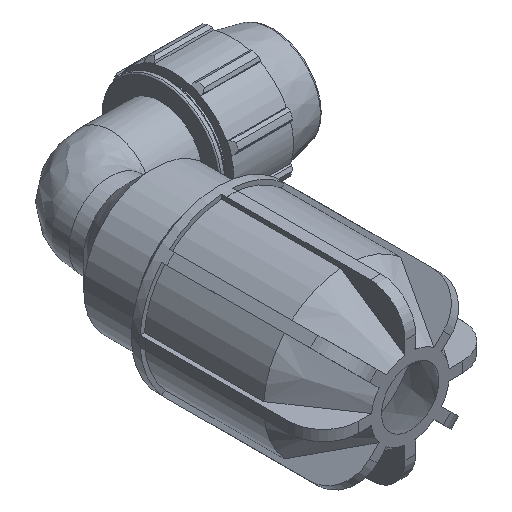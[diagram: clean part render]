
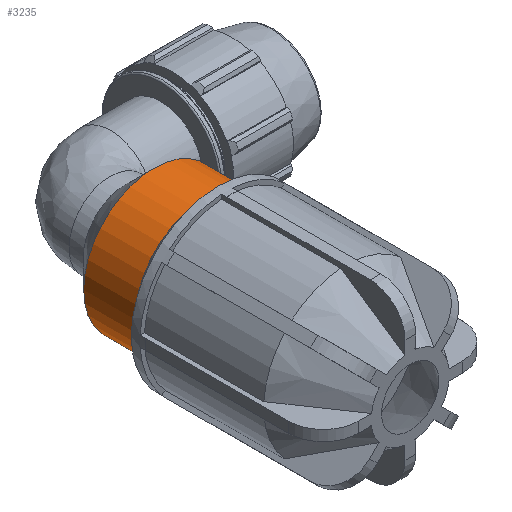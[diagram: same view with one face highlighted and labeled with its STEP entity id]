
A CAD part, isometric view. The second image highlights one B-rep face of the part: STEP entity #3235.
In plain terms, the highlighted cylindrical face has radius 28.805 mm (diameter 57.61 mm), a full revolution.
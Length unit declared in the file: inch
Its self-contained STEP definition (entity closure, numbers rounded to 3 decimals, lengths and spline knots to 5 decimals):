
#344=FACE_OUTER_BOUND('',#511,.T.);
#511=EDGE_LOOP('',(#2842,#2843,#2844,#2845,#2846,#2847));
#755=LINE('',#5541,#997);
#997=VECTOR('',#4477,1.13405);
#1164=CIRCLE('',#3578,1.13405);
#1165=CIRCLE('',#3579,1.13405);
#1166=CIRCLE('',#3581,1.13405);
#1167=CIRCLE('',#3582,1.13405);
#1476=VERTEX_POINT('',#5531);
#1477=VERTEX_POINT('',#5532);
#1478=VERTEX_POINT('',#5537);
#1479=VERTEX_POINT('',#5538);
#1934=EDGE_CURVE('',#1476,#1477,#1164,.T.);
#1935=EDGE_CURVE('',#1477,#1476,#1165,.T.);
#1937=EDGE_CURVE('',#1478,#1479,#1166,.T.);
#1938=EDGE_CURVE('',#1479,#1478,#1167,.T.);
#1939=EDGE_CURVE('',#1479,#1477,#755,.T.);
#2842=ORIENTED_EDGE('',*,*,#1937,.F.);
#2843=ORIENTED_EDGE('',*,*,#1938,.F.);
#2844=ORIENTED_EDGE('',*,*,#1939,.T.);
#2845=ORIENTED_EDGE('',*,*,#1935,.T.);
#2846=ORIENTED_EDGE('',*,*,#1934,.T.);
#2847=ORIENTED_EDGE('',*,*,#1939,.F.);
#2918=CYLINDRICAL_SURFACE('',#3580,1.13405);
#3235=ADVANCED_FACE('',(#344),#2918,.T.);
#3578=AXIS2_PLACEMENT_3D('',#5533,#4466,#4467);
#3579=AXIS2_PLACEMENT_3D('',#5534,#4468,#4469);
#3580=AXIS2_PLACEMENT_3D('',#5536,#4471,#4472);
#3581=AXIS2_PLACEMENT_3D('',#5539,#4473,#4474);
#3582=AXIS2_PLACEMENT_3D('',#5540,#4475,#4476);
#4466=DIRECTION('center_axis',(0.,1.,0.));
#4467=DIRECTION('ref_axis',(1.,0.,0.));
#4468=DIRECTION('center_axis',(0.,1.,0.));
#4469=DIRECTION('ref_axis',(1.,0.,0.));
#4471=DIRECTION('center_axis',(0.,1.,0.));
#4472=DIRECTION('ref_axis',(-1.,0.,0.));
#4473=DIRECTION('center_axis',(0.,1.,0.));
#4474=DIRECTION('ref_axis',(1.,0.,0.));
#4475=DIRECTION('center_axis',(0.,1.,0.));
#4476=DIRECTION('ref_axis',(1.,0.,0.));
#4477=DIRECTION('',(0.,-1.,0.));
#5531=CARTESIAN_POINT('',(-1.13405,-2.166,0.));
#5532=CARTESIAN_POINT('',(1.13405,-2.166,0.));
#5533=CARTESIAN_POINT('Origin',(0.,-2.166,0.));
#5534=CARTESIAN_POINT('Origin',(0.,-2.166,0.));
#5536=CARTESIAN_POINT('Origin',(0.,-1.753,0.));
#5537=CARTESIAN_POINT('',(-1.13405,-1.34,0.));
#5538=CARTESIAN_POINT('',(1.13405,-1.34,0.));
#5539=CARTESIAN_POINT('Origin',(0.,-1.34,0.));
#5540=CARTESIAN_POINT('Origin',(0.,-1.34,0.));
#5541=CARTESIAN_POINT('',(1.13405,-1.753,0.));
